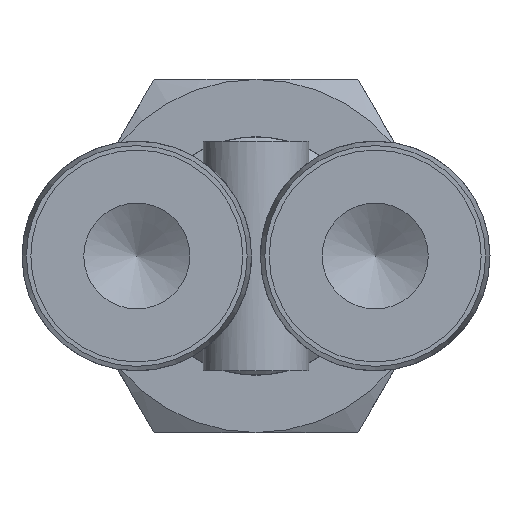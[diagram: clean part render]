
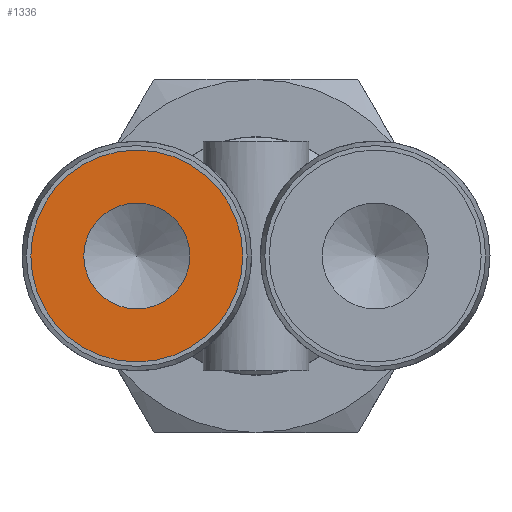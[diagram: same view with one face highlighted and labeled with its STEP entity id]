
A CAD part, front view. The second image highlights one B-rep face of the part: STEP entity #1336.
In plain terms, the highlighted planar face has unit normal (0, -1, 0).
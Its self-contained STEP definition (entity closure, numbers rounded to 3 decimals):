
#45=FACE_BOUND('',#241,.T.);
#118=PLANE('',#1473);
#158=FACE_OUTER_BOUND('',#240,.T.);
#240=EDGE_LOOP('',(#999,#1000));
#241=EDGE_LOOP('',(#1001));
#437=CIRCLE('',#1472,3.);
#438=CIRCLE('',#1474,6.);
#439=CIRCLE('',#1475,6.);
#568=VERTEX_POINT('',#2357);
#569=VERTEX_POINT('',#2361);
#570=VERTEX_POINT('',#2362);
#731=EDGE_CURVE('',#568,#568,#437,.T.);
#733=EDGE_CURVE('',#569,#570,#438,.T.);
#734=EDGE_CURVE('',#570,#569,#439,.T.);
#999=ORIENTED_EDGE('',*,*,#733,.F.);
#1000=ORIENTED_EDGE('',*,*,#734,.F.);
#1001=ORIENTED_EDGE('',*,*,#731,.T.);
#1336=ADVANCED_FACE('',(#158,#45),#118,.F.);
#1472=AXIS2_PLACEMENT_3D('',#2358,#1743,#1744);
#1473=AXIS2_PLACEMENT_3D('',#2360,#1746,#1747);
#1474=AXIS2_PLACEMENT_3D('',#2363,#1748,#1749);
#1475=AXIS2_PLACEMENT_3D('',#2364,#1750,#1751);
#1743=DIRECTION('center_axis',(0.,1.,0.));
#1744=DIRECTION('ref_axis',(-1.,0.,0.));
#1746=DIRECTION('center_axis',(0.,1.,0.));
#1747=DIRECTION('ref_axis',(0.,0.,-1.));
#1748=DIRECTION('center_axis',(0.,1.,0.));
#1749=DIRECTION('ref_axis',(-1.,0.,0.));
#1750=DIRECTION('center_axis',(0.,1.,0.));
#1751=DIRECTION('ref_axis',(-1.,0.,0.));
#2357=CARTESIAN_POINT('',(-3.75,-13.613,0.));
#2358=CARTESIAN_POINT('Origin',(-6.75,-13.613,0.));
#2360=CARTESIAN_POINT('Origin',(-9.75,-13.613,0.));
#2361=CARTESIAN_POINT('',(-12.75,-13.613,0.));
#2362=CARTESIAN_POINT('',(-0.75,-13.613,0.));
#2363=CARTESIAN_POINT('Origin',(-6.75,-13.613,0.));
#2364=CARTESIAN_POINT('Origin',(-6.75,-13.613,0.));
